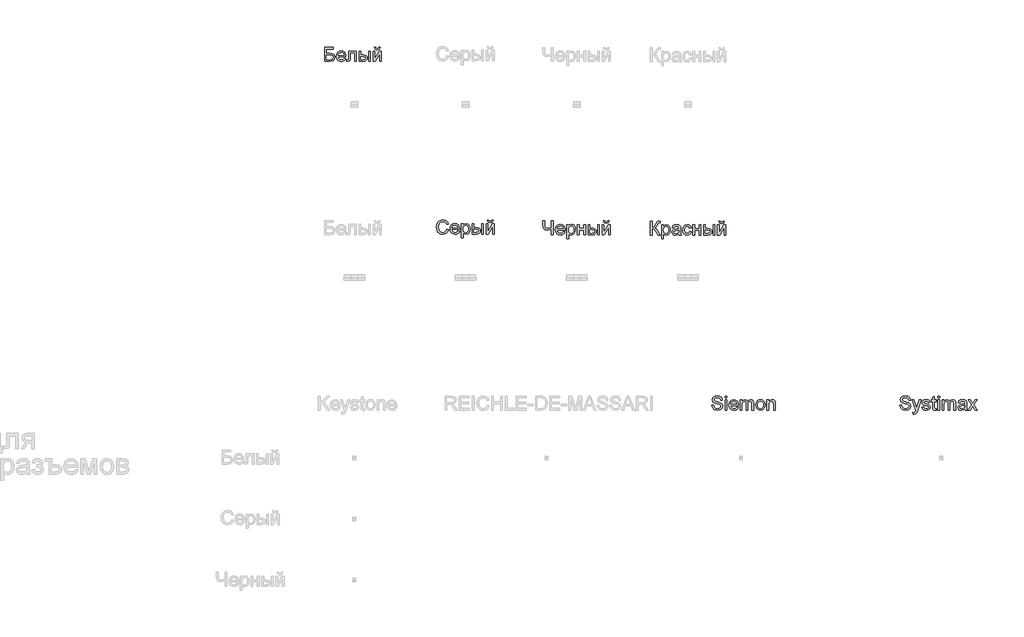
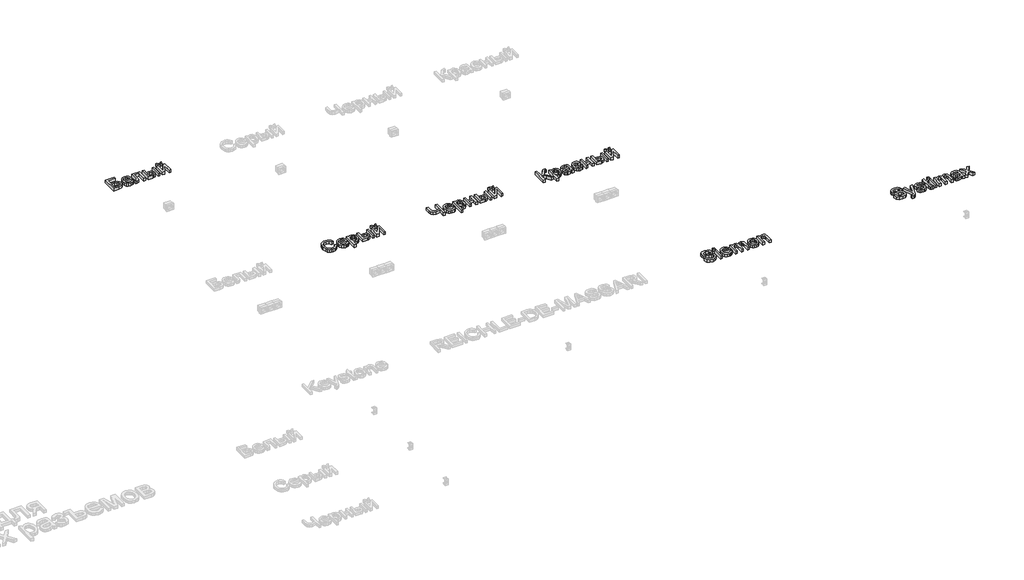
# One storey, part 14 of 15: 6 proxies.
"""IFC4 building model written with IfcOpenShell, lengths in millimetres."""

from ifc_helpers import new_model, si_unit, origin, origin_with_axes, place, context, project, spatial, polyline, outline, extrude, element, save

model = new_model("IFC4")

# Units and contexts
model_context = context("Model", 3, world=origin())
ifc_project = project(units=[si_unit("LENGTHUNIT", "METRE", prefix="MILLI")], contexts=[model_context])

# Site, building, storey
site = spatial("IfcSite", under=ifc_project)
building = spatial("IfcBuilding", under=site)
storey = spatial("IfcBuildingStorey", under=building, Name="Этаж 01", Elevation=0.0)

# Proxies
placement = place(None, origin())
element("IfcBuildingElementProxy", 1, Name="100 мм Arial", ObjectType="100 мм Arial", at=placement, inside=storey, context=model_context, shape_type="SweptSolid", body=[
    extrude(outline(polyline([(1294.7289559, 4700.4056732), (1357.5141498, 4700.4056732), (1357.5141498, 4687.8486344), (1307.2859947, 4687.8486344), (1307.2859947, 4658.0256673), (1330.8059169, 4658.0256673), (1351.529936, 4655.4750188), (1363.8662455, 4645.8365105), (1368.5015587, 4629.3553972), (1365.2028835, 4615.0447875), (1355.3559087, 4604.1677432), (1333.0622598, 4599.949363), (1294.7289559, 4599.949363), (1294.7289559, 4700.4056732)]), holes=[polyline([(1307.2859947, 4612.5064018), (1334.1904313, 4612.5064018), (1350.4998664, 4616.6512056), (1354.5833565, 4621.8322104), (1355.9445199, 4629.085617), (1352.8297857, 4638.920329), (1344.1600333, 4644.1687788), (1325.238636, 4645.4686285), (1307.2859947, 4645.4686285), (1307.2859947, 4612.5064018)])]), origin_with_axes(), (0.0, 0.0, 1.0), 20.0),
    extrude(outline(polyline([(1435.8484893, 4621.9241809), (1448.1602734, 4620.354551), (1443.7242296, 4611.0777934), (1436.6455669, 4604.1432178), (1427.0837007, 4599.8206043), (1415.1980466, 4598.3797332), (1400.4643727, 4600.8660023), (1389.1274759, 4608.3248098), (1381.8985947, 4620.2717776), (1379.4889676, 4636.2225277), (1381.9231201, 4652.7097725), (1389.2255777, 4665.0399507), (1400.4091904, 4672.7286844), (1414.4868081, 4675.2915956), (1428.126033, 4672.7348158), (1439.0245372, 4665.0644762), (1446.1706449, 4652.7588234), (1448.5526808, 4636.2961041), (1448.4791044, 4632.9115898), (1392.0460064, 4632.9115898), (1394.2195758, 4623.5122048), (1399.2687562, 4616.6021547), (1406.5558854, 4612.3531176), (1415.4433013, 4610.9367719), (1427.7550854, 4613.5609968), (1435.8484893, 4621.9241809)]), holes=[polyline([(1392.0460064, 4645.4686285), (1435.9956421, 4645.4686285), (1430.9679215, 4656.8484449), (1423.6470698, 4661.2630289), (1414.4377571, 4662.7345569), (1398.9744506, 4658.03793), (1394.1092112, 4652.5472913), (1392.0460064, 4645.4686285)])]), origin_with_axes(), (0.0, 0.0, 1.0), 20.0),
    extrude(outline(polyline([(1467.388239, 4673.7219658), (1523.8949134, 4673.7219658), (1523.8949134, 4600.0229394), (1511.3378747, 4600.0229394), (1511.3378747, 4661.164927), (1479.9452778, 4661.164927), (1479.9452778, 4625.9708828), (1479.0991492, 4609.7350241), (1474.4515733, 4602.8801562), (1463.4641644, 4599.949363), (1453.2615704, 4600.5870251), (1453.2615704, 4612.5064018), (1458.8779022, 4612.5064018), (1464.5555476, 4613.278954), (1466.8241533, 4615.7315006), (1467.388239, 4626.6821213), (1467.388239, 4673.7219658)])), origin_with_axes(), (0.0, 0.0, 1.0), 20.0),
    extrude(outline(polyline([(1611.7941848, 4673.7219658), (1624.3512236, 4673.7219658), (1624.3512236, 4599.949363), (1611.7941848, 4599.949363), (1611.7941848, 4673.7219658)])), origin_with_axes(), (0.0, 0.0, 1.0), 20.0),
    extrude(outline(polyline([(1542.7304716, 4673.7219658), (1555.2875104, 4673.7219658), (1555.2875104, 4647.0382584), (1570.8121306, 4647.0382584), (1584.2306263, 4645.4655629), (1594.1726373, 4640.7474763), (1600.3254636, 4633.2641434), (1602.3764057, 4623.3957088), (1600.6565574, 4614.4101911), (1595.4970124, 4606.8287563), (1586.5605456, 4601.6692113), (1573.5099319, 4599.949363), (1542.7304716, 4599.949363), (1542.7304716, 4673.7219658)]), holes=[polyline([(1555.2875104, 4612.5064018), (1568.1879057, 4612.5064018), (1584.8406973, 4615.1428894), (1589.819367, 4623.3711834), (1586.1282843, 4631.0967053), (1569.8311119, 4634.4812196), (1555.2875104, 4634.4812196), (1555.2875104, 4612.5064018)])]), origin_with_axes(), (0.0, 0.0, 1.0), 20.0),
    extrude(outline(polyline([(1643.1867817, 4673.7219658), (1655.7438205, 4673.7219658), (1655.7438205, 4617.460546), (1686.5968572, 4673.7219658), (1702.8327159, 4673.7219658), (1702.8327159, 4599.949363), (1690.2756771, 4599.949363), (1690.2756771, 4655.8674263), (1659.6188442, 4599.949363), (1643.1867817, 4599.949363), (1643.1867817, 4673.7219658)])), origin_with_axes(), (0.0, 0.0, 1.0), 20.0),
    extrude(outline(polyline([(1683.9971577, 4700.4056732), (1693.4149368, 4700.4056732), (1687.3203584, 4686.4384201), (1673.7945637, 4681.570115), (1659.1528603, 4686.4016319), (1652.6045608, 4700.4056732), (1662.0223399, 4700.4056732), (1665.5540071, 4693.3300761), (1672.6663923, 4690.9878941), (1680.4654906, 4693.2564997), (1683.9971577, 4700.4056732)])), origin_with_axes(), (0.0, 0.0, 1.0), 20.0),
])
element("IfcBuildingElementProxy", 2, Name="100 мм Arial", ObjectType="100 мм Arial", at=placement, inside=storey, context=model_context, shape_type="SweptSolid", body=[
    extrude(outline(polyline([(2173.9900999, 3393.5430011), (2186.5471386, 3390.3056395), (2180.7529972, 3375.6731332), (2171.6601806, 3364.9830955), (2159.7162785, 3358.4439931), (2145.3688806, 3356.2642923), (2130.8038193, 3357.9136299), (2119.2369963, 3362.8616427), (2110.3710402, 3370.9366525), (2103.9085798, 3381.966981), (2098.6478673, 3408.8223666), (2100.1347237, 3423.4702014), (2104.5952928, 3436.1192107), (2111.7965829, 3446.3677899), (2121.5056019, 3453.8143346), (2133.0203083, 3458.3484802), (2145.6386608, 3459.8598621), (2159.4066444, 3457.9039562), (2170.7895265, 3452.0362383), (2179.4316877, 3442.6184593), (2184.9775088, 3430.0123696), (2172.42047, 3427.0202627), (2162.1197742, 3442.4590437), (2145.1481514, 3447.3028233), (2125.5032529, 3441.9317462), (2114.4054794, 3427.510772), (2111.204906, 3408.8468921), (2114.9940906, 3387.2154308), (2126.7908399, 3373.3953305), (2144.1180819, 3368.821331), (2154.599653, 3370.3786981), (2163.3337847, 3375.0507995), (2169.9280695, 3382.7885841), (2173.9900999, 3393.5430011)])), origin_with_axes(), (0.0, 0.0, 1.0), 20.0),
    extrude(outline(polyline([(2253.8940692, 3379.8087399), (2266.2058533, 3378.2391101), (2261.7698096, 3368.9623525), (2254.6911469, 3362.0277768), (2245.1292807, 3357.7051634), (2233.2436266, 3356.2642923), (2218.5099527, 3358.7505614), (2207.1730558, 3366.2093689), (2199.9441746, 3378.1563367), (2197.5345476, 3394.1070868), (2199.9687001, 3410.5943316), (2207.2711577, 3422.9245098), (2218.4547704, 3430.6132435), (2232.532388, 3433.1761547), (2246.171613, 3430.6193748), (2257.0701171, 3422.9490352), (2264.2162249, 3410.6433825), (2266.5982608, 3394.1806632), (2266.5246844, 3390.7961489), (2210.0915863, 3390.7961489), (2212.2651558, 3381.3967639), (2217.3143362, 3374.4867137), (2224.6014654, 3370.2376767), (2233.4888812, 3368.821331), (2245.8006653, 3371.4455559), (2253.8940692, 3379.8087399)]), holes=[polyline([(2210.0915863, 3403.3531876), (2254.041222, 3403.3531876), (2249.0135014, 3414.733004), (2241.6926497, 3419.147588), (2232.4833371, 3420.6191159), (2217.0200306, 3415.9224891), (2212.1547912, 3410.4318504), (2210.0915863, 3403.3531876)])]), origin_with_axes(), (0.0, 0.0, 1.0), 20.0),
    extrude(outline(polyline([(2279.1552996, 3329.5805849), (2279.1552996, 3431.6065249), (2291.7123383, 3431.6065249), (2291.7123383, 3419.2947408), (2300.3943534, 3429.7058012), (2312.1175263, 3433.1761547), (2328.034554, 3428.3201124), (2338.4333517, 3414.6349022), (2341.9404934, 3395.2843092), (2337.9796306, 3374.9404349), (2326.4771869, 3361.0835464), (2310.5969474, 3356.2642923), (2299.6708522, 3359.4893911), (2291.7123383, 3367.6441086), (2291.7123383, 3329.5805849), (2279.1552996, 3329.5805849)]), holes=[polyline([(2291.7123383, 3394.1316123), (2293.070436, 3382.8744232), (2297.1447291, 3375.0017485), (2303.1565341, 3370.3664354), (2310.3271673, 3368.821331), (2317.6142965, 3370.4216177), (2323.7793856, 3375.2224777), (2327.9824374, 3383.3833267), (2329.3834546, 3395.06358), (2328.0161599, 3406.2594554), (2323.9142756, 3414.2424947), (2317.9116677, 3419.0249606), (2310.8422021, 3420.6191159), (2303.7451453, 3418.9237931), (2297.5126111, 3413.8378245), (2293.1624065, 3405.5206257), (2291.7123383, 3394.1316123)])]), origin_with_axes(), (0.0, 0.0, 1.0), 20.0),
    extrude(outline(polyline([(2425.1308752, 3431.6065249), (2437.687914, 3431.6065249), (2437.687914, 3357.8339221), (2425.1308752, 3357.8339221), (2425.1308752, 3431.6065249)])), origin_with_axes(), (0.0, 0.0, 1.0), 20.0),
    extrude(outline(polyline([(2356.067162, 3431.6065249), (2368.6242008, 3431.6065249), (2368.6242008, 3404.9228175), (2384.148821, 3404.9228175), (2397.5673168, 3403.350122), (2407.5093277, 3398.6320354), (2413.662154, 3391.1487024), (2415.7130962, 3381.2802679), (2413.9932478, 3372.2947502), (2408.8337029, 3364.7133154), (2399.8972361, 3359.5537704), (2386.8466223, 3357.8339221), (2356.067162, 3357.8339221), (2356.067162, 3431.6065249)]), holes=[polyline([(2368.6242008, 3370.3909609), (2381.5245961, 3370.3909609), (2398.1773877, 3373.0274485), (2403.1560574, 3381.2557425), (2399.4649747, 3388.9812644), (2383.1678023, 3392.3657787), (2368.6242008, 3392.3657787), (2368.6242008, 3370.3909609)])]), origin_with_axes(), (0.0, 0.0, 1.0), 20.0),
    extrude(outline(polyline([(2497.3338482, 3458.2902323), (2506.7516272, 3458.2902323), (2500.6570489, 3444.3229792), (2487.1312542, 3439.4546741), (2472.4895508, 3444.286191), (2465.9412512, 3458.2902323), (2475.3590303, 3458.2902323), (2478.8906975, 3451.2146352), (2486.0030827, 3448.8724532), (2493.802181, 3451.1410588), (2497.3338482, 3458.2902323)])), origin_with_axes(), (0.0, 0.0, 1.0), 20.0),
    extrude(outline(polyline([(2456.5234722, 3431.6065249), (2469.0805109, 3431.6065249), (2469.0805109, 3375.3451051), (2499.9335476, 3431.6065249), (2516.1694063, 3431.6065249), (2516.1694063, 3357.8339221), (2503.6123675, 3357.8339221), (2503.6123675, 3413.7519854), (2472.9555346, 3357.8339221), (2456.5234722, 3357.8339221), (2456.5234722, 3431.6065249)])), origin_with_axes(), (0.0, 0.0, 1.0), 20.0),
])
element("IfcBuildingElementProxy", 3, Name="100 мм Arial", ObjectType="100 мм Arial", at=placement, inside=storey, context=model_context, shape_type="SweptSolid", body=[
    extrude(outline(polyline([(2939.4582433, 3352.425762), (2926.9012045, 3352.425762), (2926.9012045, 3392.6475268), (2895.8029132, 3385.3879888), (2877.4456016, 3390.3543957), (2866.8015492, 3402.9604854), (2864.1160106, 3422.9610032), (2864.1160106, 3452.8820722), (2876.6730494, 3452.8820722), (2876.6730494, 3424.6532604), (2878.1813656, 3411.0753491), (2882.7063141, 3403.1076382), (2897.2008647, 3397.9450276), (2926.9012045, 3404.174496), (2926.9012045, 3452.8820722), (2939.4582433, 3452.8820722), (2939.4582433, 3352.425762)])), origin_with_axes(), (0.0, 0.0, 1.0), 20.0),
    extrude(outline(polyline([(3011.5140634, 3374.4005799), (3023.8258475, 3372.83095), (3019.3898038, 3363.5541924), (3012.311141, 3356.6196168), (3002.7492748, 3352.2970033), (2990.8636207, 3350.8561322), (2976.1299468, 3353.3424013), (2964.79305, 3360.8012088), (2957.5641688, 3372.7481766), (2955.1545417, 3388.6989267), (2957.5886943, 3405.1861715), (2964.8911519, 3417.5163497), (2976.0747645, 3425.2050834), (2990.1523822, 3427.7679946), (3003.7916072, 3425.2112148), (3014.6901113, 3417.5408752), (3021.836219, 3405.2352224), (3024.2182549, 3388.7725031), (3024.1446785, 3385.3879888), (2967.7115805, 3385.3879888), (2969.8851499, 3375.9886038), (2974.9343303, 3369.0785537), (2982.2214595, 3364.8295166), (2991.1088754, 3363.4131709), (3003.4206595, 3366.0373958), (3011.5140634, 3374.4005799)]), holes=[polyline([(2967.7115805, 3397.9450276), (3011.6612162, 3397.9450276), (3006.6334956, 3409.3248439), (2999.3126439, 3413.7394279), (2990.1033313, 3415.2109559), (2974.6400247, 3410.5143291), (2969.7747853, 3405.0236903), (2967.7115805, 3397.9450276)])]), origin_with_axes(), (0.0, 0.0, 1.0), 20.0),
    extrude(outline(polyline([(3036.7752937, 3324.1724248), (3036.7752937, 3426.1983648), (3049.3323325, 3426.1983648), (3049.3323325, 3413.8865807), (3058.0143476, 3424.2976411), (3069.7375205, 3427.7679946), (3085.6545481, 3422.9119523), (3096.0533459, 3409.2267421), (3099.5604876, 3389.8761491), (3095.5996247, 3369.5322748), (3084.097181, 3355.6753863), (3068.2169416, 3350.8561322), (3057.2908463, 3354.081231), (3049.3323325, 3362.2359486), (3049.3323325, 3324.1724248), (3036.7752937, 3324.1724248)]), holes=[polyline([(3049.3323325, 3388.7234522), (3050.6904302, 3377.4662632), (3054.7647233, 3369.5935885), (3060.7765282, 3364.9582753), (3067.9471614, 3363.4131709), (3075.2342906, 3365.0134576), (3081.3993797, 3369.8143177), (3085.6024315, 3377.9751666), (3087.0034488, 3389.6554199), (3085.636154, 3400.8512953), (3081.5342698, 3408.8343346), (3075.5316619, 3413.6168005), (3068.4621962, 3415.2109559), (3061.3651394, 3413.515633), (3055.1326053, 3408.4296644), (3050.7824007, 3400.1124656), (3049.3323325, 3388.7234522)])]), origin_with_axes(), (0.0, 0.0, 1.0), 20.0),
    extrude(outline(polyline([(3113.6871562, 3426.1983648), (3126.2441949, 3426.1983648), (3126.2441949, 3397.9450276), (3159.2064217, 3397.9450276), (3159.2064217, 3426.1983648), (3171.7634605, 3426.1983648), (3171.7634605, 3352.425762), (3159.2064217, 3352.425762), (3159.2064217, 3385.3879888), (3126.2441949, 3385.3879888), (3126.2441949, 3352.425762), (3113.6871562, 3352.425762), (3113.6871562, 3426.1983648)])), origin_with_axes(), (0.0, 0.0, 1.0), 20.0),
    extrude(outline(polyline([(3190.5990186, 3426.1983648), (3203.1560574, 3426.1983648), (3203.1560574, 3399.5146574), (3218.6806776, 3399.5146574), (3232.0991734, 3397.9419619), (3242.0411843, 3393.2238753), (3248.1940107, 3385.7405424), (3250.2449528, 3375.8721078), (3248.5251045, 3366.8865901), (3243.3655595, 3359.3051553), (3234.4290927, 3354.1456103), (3221.3784789, 3352.425762), (3190.5990186, 3352.425762), (3190.5990186, 3426.1983648)]), holes=[polyline([(3203.1560574, 3364.9828008), (3216.0564527, 3364.9828008), (3232.7092443, 3367.6192884), (3237.687914, 3375.8475824), (3233.9968313, 3383.5731043), (3217.6996589, 3386.9576186), (3203.1560574, 3386.9576186), (3203.1560574, 3364.9828008)])]), origin_with_axes(), (0.0, 0.0, 1.0), 20.0),
    extrude(outline(polyline([(3259.6627319, 3426.1983648), (3272.2197706, 3426.1983648), (3272.2197706, 3352.425762), (3259.6627319, 3352.425762), (3259.6627319, 3426.1983648)])), origin_with_axes(), (0.0, 0.0, 1.0), 20.0),
    extrude(outline(polyline([(3291.0553288, 3426.1983648), (3303.6123675, 3426.1983648), (3303.6123675, 3369.936945), (3334.4654042, 3426.1983648), (3350.7012629, 3426.1983648), (3350.7012629, 3352.425762), (3338.1442242, 3352.425762), (3338.1442242, 3408.3438253), (3307.4873912, 3352.425762), (3291.0553288, 3352.425762), (3291.0553288, 3426.1983648)])), origin_with_axes(), (0.0, 0.0, 1.0), 20.0),
    extrude(outline(polyline([(3331.8657048, 3452.8820722), (3341.2834839, 3452.8820722), (3335.1889055, 3438.9148191), (3321.6631108, 3434.046514), (3307.0214074, 3438.8780309), (3300.4731079, 3452.8820722), (3309.8908869, 3452.8820722), (3313.4225541, 3445.8064751), (3320.5349393, 3443.4642931), (3328.3340376, 3445.7328987), (3331.8657048, 3452.8820722)])), origin_with_axes(), (0.0, 0.0, 1.0), 20.0),
])
element("IfcBuildingElementProxy", 4, Name="100 мм Arial", ObjectType="100 мм Arial", at=placement, inside=storey, context=model_context, shape_type="SweptSolid", body=[
    extrude(outline(polyline([(3639.0019331, 3451.2621771), (3651.5589719, 3451.2621771), (3651.5589719, 3407.3125414), (3665.5998014, 3410.6357421), (3675.3977252, 3427.4479493), (3682.3261694, 3441.4887788), (3690.1743186, 3448.4417485), (3701.3947195, 3451.2621771), (3709.6352762, 3451.1150243), (3709.6352762, 3438.5579855), (3706.8638985, 3438.6315619), (3704.0925208, 3438.7051383), (3694.2823342, 3435.688506), (3686.8265925, 3422.7635852), (3677.9361109, 3407.0182358), (3669.2663586, 3401.8188369), (3678.9600491, 3396.1411915), (3688.5188497, 3384.307654), (3709.6352762, 3350.8058669), (3695.0671492, 3350.8058669), (3677.2126097, 3379.1082551), (3664.6433082, 3393.8848486), (3651.5589719, 3397.8947623), (3651.5589719, 3350.8058669), (3639.0019331, 3350.8058669), (3639.0019331, 3451.2621771)])), origin_with_axes(), (0.0, 0.0, 1.0), 20.0),
    extrude(outline(polyline([(3719.0530553, 3322.5525297), (3719.0530553, 3424.5784697), (3731.610094, 3424.5784697), (3731.610094, 3412.2666856), (3740.2921091, 3422.6777461), (3752.015282, 3426.1480996), (3767.9323097, 3421.2920572), (3778.3311074, 3407.606847), (3781.8382491, 3388.2562541), (3777.8773863, 3367.9123797), (3766.3749426, 3354.0554912), (3750.4947031, 3349.2362371), (3739.5686079, 3352.4613359), (3731.610094, 3360.6160535), (3731.610094, 3322.5525297), (3719.0530553, 3322.5525297)]), holes=[polyline([(3731.610094, 3387.1035571), (3732.9681917, 3375.8463681), (3737.0424848, 3367.9736934), (3743.0542898, 3363.3383802), (3750.224923, 3361.7932759), (3757.5120522, 3363.3935625), (3763.6771413, 3368.1944226), (3767.8801931, 3376.3552715), (3769.2812103, 3388.0355249), (3767.9139156, 3399.2314002), (3763.8120313, 3407.2144395), (3757.8094234, 3411.9969055), (3750.7399578, 3413.5910608), (3743.642901, 3411.8957379), (3737.4103668, 3406.8097693), (3733.0601622, 3398.4925706), (3731.610094, 3387.1035571)])]), origin_with_axes(), (0.0, 0.0, 1.0), 20.0),
    extrude(outline(polyline([(3843.0538131, 3360.223646), (3830.8769191, 3351.7133092), (3817.4247008, 3349.2362371), (3806.9308669, 3350.7261592), (3799.1900165, 3355.1959254), (3794.4167477, 3361.9833482), (3792.825658, 3370.42624), (3795.2291537, 3380.3590539), (3801.5444613, 3387.569541), (3810.336841, 3391.6898193), (3821.2016226, 3393.5782802), (3842.9802367, 3397.8947623), (3843.0538131, 3400.6906655), (3839.5957223, 3409.9612918), (3825.7143084, 3413.5910608), (3813.0101168, 3411.1753024), (3806.9523266, 3402.6036519), (3794.3952879, 3404.1732817), (3799.8276787, 3416.4360149), (3810.7660367, 3423.6219765), (3827.3329892, 3426.1480996), (3842.551041, 3423.9162821), (3851.147217, 3418.3122131), (3854.9977152, 3409.7896135), (3855.6108519, 3398.8022046), (3855.6108519, 3383.1794825), (3856.248514, 3361.3640802), (3858.7501116, 3350.8058669), (3846.1930728, 3350.8058669), (3843.0538131, 3360.223646)]), holes=[polyline([(3843.0538131, 3385.3377236), (3822.7957779, 3381.4872253), (3811.99231, 3379.4516116), (3807.0994794, 3376.1406737), (3805.3826968, 3371.3091568), (3809.1228304, 3364.5156026), (3820.0979766, 3361.7932759), (3832.8021682, 3364.7976455), (3840.9936739, 3372.0694463), (3842.9802367, 3381.7815309), (3843.0538131, 3385.3377236)])]), origin_with_axes(), (0.0, 0.0, 1.0), 20.0),
    extrude(outline(polyline([(3919.9656756, 3377.4895743), (3932.5227143, 3375.9199445), (3929.021704, 3364.7516602), (3922.4427477, 3356.3118341), (3913.4051133, 3351.0051364), (3902.528069, 3349.2362371), (3889.1708869, 3351.7041121), (3878.7261039, 3359.1077373), (3871.9846663, 3371.1221501), (3869.7375205, 3387.4223882), (3873.575756, 3408.2812973), (3885.2744034, 3421.6844647), (3902.3563907, 3426.1480996), (3912.9667206, 3424.6152579), (3921.4494663, 3420.016733), (3927.5348476, 3412.5977794), (3930.9530845, 3402.6036519), (3918.3960457, 3401.034022), (3912.5712475, 3410.4395384), (3902.4544926, 3413.5910608), (3894.3396289, 3412.039825), (3887.8986283, 3407.3861178), (3883.6955765, 3399.378553), (3882.2945592, 3387.7657447), (3883.6649197, 3375.9965866), (3887.776001, 3367.9614307), (3894.1005056, 3363.3353146), (3902.1111361, 3361.7932759), (3913.9446736, 3365.6437741), (3919.9656756, 3377.4895743)])), origin_with_axes(), (0.0, 0.0, 1.0), 20.0),
    extrude(outline(polyline([(3943.5101232, 3424.5784697), (3956.067162, 3424.5784697), (3956.067162, 3396.3251325), (3989.0293888, 3396.3251325), (3989.0293888, 3424.5784697), (4001.5864276, 3424.5784697), (4001.5864276, 3350.8058669), (3989.0293888, 3350.8058669), (3989.0293888, 3383.7680937), (3956.067162, 3383.7680937), (3956.067162, 3350.8058669), (3943.5101232, 3350.8058669), (3943.5101232, 3424.5784697)])), origin_with_axes(), (0.0, 0.0, 1.0), 20.0),
    extrude(outline(polyline([(4089.4856989, 3424.5784697), (4102.0427377, 3424.5784697), (4102.0427377, 3350.8058669), (4089.4856989, 3350.8058669), (4089.4856989, 3424.5784697)])), origin_with_axes(), (0.0, 0.0, 1.0), 20.0),
    extrude(outline(polyline([(4020.4219857, 3424.5784697), (4032.9790245, 3424.5784697), (4032.9790245, 3397.8947623), (4048.5036447, 3397.8947623), (4061.9221404, 3396.3220668), (4071.8641514, 3391.6039802), (4078.0169777, 3384.1206473), (4080.0679199, 3374.2522128), (4078.3480715, 3365.266695), (4073.1885265, 3357.6852603), (4064.2520597, 3352.5257153), (4051.201446, 3350.8058669), (4020.4219857, 3350.8058669), (4020.4219857, 3424.5784697)]), holes=[polyline([(4032.9790245, 3363.3629057), (4045.8794198, 3363.3629057), (4062.5322114, 3365.9993933), (4067.5108811, 3374.2276873), (4063.8197984, 3381.9532092), (4047.522626, 3385.3377236), (4032.9790245, 3385.3377236), (4032.9790245, 3363.3629057)])]), origin_with_axes(), (0.0, 0.0, 1.0), 20.0),
    extrude(outline(polyline([(4120.8782959, 3424.5784697), (4133.4353346, 3424.5784697), (4133.4353346, 3368.3170499), (4164.2883713, 3424.5784697), (4180.52423, 3424.5784697), (4180.52423, 3350.8058669), (4167.9671912, 3350.8058669), (4167.9671912, 3406.7239302), (4137.3103583, 3350.8058669), (4120.8782959, 3350.8058669), (4120.8782959, 3424.5784697)])), origin_with_axes(), (0.0, 0.0, 1.0), 20.0),
    extrude(outline(polyline([(4161.6886719, 3451.2621771), (4171.1064509, 3451.2621771), (4165.0118725, 3437.294924), (4151.4860779, 3432.4266189), (4136.8443744, 3437.2581358), (4130.2960749, 3451.2621771), (4139.713854, 3451.2621771), (4143.2455212, 3444.1865801), (4150.3579064, 3441.844398), (4158.1570047, 3444.1130037), (4161.6886719, 3451.2621771)])), origin_with_axes(), (0.0, 0.0, 1.0), 20.0),
])
element("IfcBuildingElementProxy", 5, Name="100 мм Arial", ObjectType="100 мм Arial", at=placement, inside=storey, context=model_context, shape_type="SweptSolid", body=[
    extrude(outline(polyline([(4079.8123091, 2125.8447646), (4092.3693479, 2125.8447646), (4096.4160498, 2113.2754631), (4106.2998128, 2105.329212), (4121.3584491, 2102.3003169), (4134.4795736, 2104.593448), (4142.9531222, 2110.8964928), (4145.7367626, 2119.3209905), (4143.652098, 2127.156877), (4135.1172357, 2132.8590479), (4116.8335006, 2137.6537766), (4097.1518138, 2143.8464569), (4086.4709732, 2153.1906595), (4082.9515688, 2165.6741219), (4087.3048391, 2179.8866297), (4100.0212934, 2189.9175454), (4118.6361223, 2193.3388479), (4138.5017501, 2189.7581299), (4151.7455019, 2179.2367048), (4156.7241716, 2163.5158809), (4144.1671328, 2163.5158809), (4141.861739, 2171.0084108), (4137.0547476, 2176.4162762), (4119.1266317, 2180.7818092), (4101.1494648, 2176.4653271), (4095.5086076, 2166.0420039), (4099.5062586, 2157.3354634), (4120.0095484, 2150.32118), (4142.229621, 2144.0181351), (4154.3819895, 2133.8400666), (4158.2938014, 2119.6398216), (4153.7933783, 2104.6179734), (4140.8439321, 2093.65509), (4121.8489584, 2089.7432781), (4099.4204194, 2093.9616583), (4085.2324372, 2106.6658499), (4079.8123091, 2125.8447646)])), origin_with_axes(), (0.0, 0.0, 1.0), 20.0),
    extrude(outline(polyline([(4175.5597297, 2179.2121793), (4175.5597297, 2191.7692181), (4188.1167685, 2191.7692181), (4188.1167685, 2179.2121793), (4175.5597297, 2179.2121793)])), origin_with_axes(), (0.0, 0.0, 1.0), 20.0),
    extrude(outline(polyline([(4175.5597297, 2091.312908), (4175.5597297, 2165.0855107), (4188.1167685, 2165.0855107), (4188.1167685, 2091.312908), (4175.5597297, 2091.312908)])), origin_with_axes(), (0.0, 0.0, 1.0), 20.0),
    extrude(outline(polyline([(4258.6029588, 2113.2877258), (4270.9147429, 2111.718096), (4266.4786991, 2102.4413383), (4259.4000364, 2095.5067627), (4249.8381702, 2091.1841493), (4237.9525161, 2089.7432781), (4223.2188422, 2092.2295473), (4211.8819454, 2099.6883547), (4204.6530642, 2111.6353225), (4202.2434371, 2127.5860727), (4204.6775896, 2144.0733174), (4211.9800472, 2156.4034956), (4223.1636599, 2164.0922293), (4237.2412776, 2166.6551406), (4250.8805025, 2164.0983607), (4261.7790067, 2156.4280211), (4268.9251144, 2144.1223684), (4271.3071503, 2127.6596491), (4271.2335739, 2124.2751347), (4214.8004759, 2124.2751347), (4216.9740453, 2114.8757497), (4222.0232257, 2107.9656996), (4229.3103549, 2103.7166626), (4238.1977708, 2102.3003169), (4250.5095549, 2104.9245418), (4258.6029588, 2113.2877258)]), holes=[polyline([(4214.8004759, 2136.8321735), (4258.7501116, 2136.8321735), (4253.722391, 2148.2119899), (4246.4015393, 2152.6265738), (4237.1922266, 2154.0981018), (4221.7289201, 2149.401475), (4216.8636807, 2143.9108362), (4214.8004759, 2136.8321735)])]), origin_with_axes(), (0.0, 0.0, 1.0), 20.0),
    extrude(outline(polyline([(4283.8641891, 2091.312908), (4283.8641891, 2165.0855107), (4296.4212279, 2165.0855107), (4296.4212279, 2152.9454049), (4305.054192, 2162.8904815), (4317.3414507, 2166.6551406), (4329.9230149, 2162.8169051), (4336.8391964, 2152.0624881), (4346.6371202, 2163.0069774), (4359.010218, 2166.6551406), (4368.4494568, 2165.1376273), (4375.4300177, 2160.5850876), (4379.7434341, 2152.8748942), (4381.1812396, 2141.8844196), (4381.1812396, 2091.312908), (4368.6242008, 2091.312908), (4368.6242008, 2136.488817), (4367.4592411, 2146.9734538), (4363.2408609, 2152.1360645), (4356.067162, 2154.0981018), (4343.7185897, 2149.0703812), (4340.0305727, 2142.528213), (4338.8012337, 2132.9571498), (4338.8012337, 2091.312908), (4326.2441949, 2091.312908), (4326.2441949, 2137.8867685), (4323.3379272, 2150.0513998), (4313.8097835, 2154.0981018), (4304.5146318, 2151.4003005), (4298.3342142, 2143.5031003), (4296.4212279, 2128.5180404), (4296.4212279, 2091.312908), (4283.8641891, 2091.312908)])), origin_with_axes(), (0.0, 0.0, 1.0), 20.0),
    extrude(outline(polyline([(4396.877538, 2128.1992093), (4399.5937334, 2145.9863038), (4407.7423196, 2158.4881603), (4417.8100235, 2164.6133955), (4429.8642902, 2166.6551406), (4443.0559255, 2164.1688714), (4453.5926789, 2156.710064), (4460.4996634, 2144.8673294), (4462.8019915, 2129.2292789), (4458.7307641, 2106.8865791), (4446.8727012, 2094.2437012), (4429.8642902, 2089.7432781), (4416.5132395, 2092.2203502), (4405.9887488, 2099.6515665), (4399.1553407, 2111.7426214), (4396.877538, 2128.1992093)]), holes=[polyline([(4409.4345768, 2128.2237348), (4410.8877107, 2116.8592468), (4415.2471123, 2108.7627773), (4421.8076746, 2103.915932), (4429.8642902, 2102.3003169), (4437.8841177, 2103.925129), (4444.4324173, 2108.7995655), (4448.7918189, 2117.0033339), (4450.2449528, 2128.6161423), (4448.7826218, 2139.6495364), (4444.3956291, 2147.6356414), (4437.8381325, 2152.4824867), (4429.8642902, 2154.0981018), (4421.8076746, 2152.4886181), (4415.2471123, 2147.6601669), (4410.8877107, 2139.5820914), (4409.4345768, 2128.2237348)])]), origin_with_axes(), (0.0, 0.0, 1.0), 20.0),
    extrude(outline(polyline([(4476.9286602, 2091.312908), (4476.9286602, 2165.0855107), (4489.4856989, 2165.0855107), (4489.4856989, 2154.7848149), (4499.087419, 2163.6875591), (4512.1962808, 2166.6551406), (4524.0543437, 2164.2639076), (4532.1477476, 2157.9853882), (4535.9124067, 2148.7515501), (4536.5745943, 2136.6114443), (4536.5745943, 2091.312908), (4524.0175555, 2091.312908), (4524.0175555, 2134.9191871), (4522.570553, 2146.0292234), (4517.4569933, 2151.9030726), (4508.8362919, 2154.0981018), (4495.2123953, 2149.1684831), (4490.917373, 2142.025441), (4489.4856989, 2130.4555522), (4489.4856989, 2091.312908), (4476.9286602, 2091.312908)])), origin_with_axes(), (0.0, 0.0, 1.0), 20.0),
])
element("IfcBuildingElementProxy", 6, Name="100 мм Arial", ObjectType="100 мм Arial", at=placement, inside=storey, context=model_context, shape_type="SweptSolid", body=[
    extrude(outline(polyline([(5432.7234137, 2125.8447646), (5445.2804525, 2125.8447646), (5449.3271544, 2113.2754631), (5459.2109174, 2105.329212), (5474.2695537, 2102.3003169), (5487.3906782, 2104.593448), (5495.8642268, 2110.8964928), (5498.6478673, 2119.3209905), (5496.5632026, 2127.156877), (5488.0283403, 2132.8590479), (5469.7446052, 2137.6537766), (5450.0629184, 2143.8464569), (5439.3820778, 2153.1906595), (5435.8626734, 2165.6741219), (5440.2159437, 2179.8866297), (5452.932398, 2189.9175454), (5471.5472269, 2193.3388479), (5491.4128547, 2189.7581299), (5504.6566065, 2179.2367048), (5509.6352762, 2163.5158809), (5497.0782374, 2163.5158809), (5494.7728436, 2171.0084108), (5489.9658522, 2176.4162762), (5472.0377363, 2180.7818092), (5454.0605694, 2176.4653271), (5448.4197122, 2166.0420039), (5452.4173632, 2157.3354634), (5472.9206531, 2150.32118), (5495.1407256, 2144.0181351), (5507.2930941, 2133.8400666), (5511.204906, 2119.6398216), (5506.704483, 2104.6179734), (5493.7550367, 2093.65509), (5474.760063, 2089.7432781), (5452.3315241, 2093.9616583), (5438.1435418, 2106.6658499), (5432.7234137, 2125.8447646)])), origin_with_axes(), (0.0, 0.0, 1.0), 20.0),
    extrude(outline(polyline([(5528.4708343, 2063.0595707), (5526.9012045, 2075.1506256), (5533.2778257, 2074.0469796), (5539.2375141, 2075.4326685), (5542.8918085, 2079.2954294), (5546.3253738, 2088.5415303), (5547.3063925, 2091.5826881), (5520.6226851, 2165.0855107), (5533.8664369, 2165.0855107), (5548.017631, 2124.1279819), (5552.9472497, 2107.7449704), (5557.8768685, 2122.2149955), (5572.42047, 2165.0855107), (5585.56612, 2165.0855107), (5559.8879567, 2089.5470744), (5553.2170299, 2073.1640629), (5545.9329664, 2064.3103695), (5536.1473053, 2061.4899409), (5528.4708343, 2063.0595707)])), origin_with_axes(), (0.0, 0.0, 1.0), 20.0),
    extrude(outline(polyline([(5591.2560282, 2113.2877258), (5603.8130669, 2114.8573556), (5609.6256025, 2105.5376784), (5622.9429307, 2102.3003169), (5635.7452241, 2105.2678983), (5639.9145534, 2112.2331307), (5635.7206987, 2117.873988), (5622.7957779, 2121.4547061), (5603.8866433, 2127.5983354), (5595.6338239, 2134.7720343), (5592.825658, 2144.9010519), (5595.0820009, 2154.2575173), (5601.237893, 2161.4066908), (5609.2209323, 2165.1222989), (5620.0244002, 2166.6551406), (5635.3037657, 2164.1903312), (5645.0158504, 2157.5194043), (5649.3323325, 2146.2499526), (5636.7752937, 2144.6803227), (5632.0541414, 2151.608767), (5621.0054189, 2154.0981018), (5608.9879403, 2151.7191316), (5605.3826968, 2146.1763762), (5606.8787502, 2142.5220817), (5611.5631143, 2139.750704), (5622.378845, 2137.0774282), (5640.8097329, 2131.1667908), (5649.3691207, 2124.4713384), (5652.4715922, 2113.5575059), (5648.8295604, 2101.5400274), (5638.3203981, 2092.8212241), (5622.7712524, 2089.7432781), (5610.1099804, 2091.2270688), (5600.870011, 2095.678441), (5594.7018562, 2103.0483436), (5591.2560282, 2113.2877258)])), origin_with_axes(), (0.0, 0.0, 1.0), 20.0),
    extrude(outline(polyline([(5693.2819682, 2101.7852821), (5694.851598, 2090.945026), (5685.4583444, 2089.7432781), (5674.9369193, 2091.8279427), (5669.6884695, 2097.2971217), (5668.1678906, 2111.5464177), (5668.1678906, 2152.5284719), (5658.7501116, 2152.5284719), (5658.7501116, 2165.0855107), (5668.1678906, 2165.0855107), (5668.1678906, 2183.0136266), (5680.7249294, 2190.395792), (5680.7249294, 2165.0855107), (5693.2819682, 2165.0855107), (5693.2819682, 2152.5284719), (5680.7249294, 2152.5284719), (5680.7249294, 2111.9142997), (5681.387117, 2105.4395766), (5683.5330953, 2103.1464455), (5687.8127892, 2102.3003169), (5693.2819682, 2101.7852821)])), origin_with_axes(), (0.0, 0.0, 1.0), 20.0),
    extrude(outline(polyline([(5705.8390069, 2179.2121793), (5705.8390069, 2191.7692181), (5718.3960457, 2191.7692181), (5718.3960457, 2179.2121793), (5705.8390069, 2179.2121793)])), origin_with_axes(), (0.0, 0.0, 1.0), 20.0),
    extrude(outline(polyline([(5705.8390069, 2091.312908), (5705.8390069, 2165.0855107), (5718.3960457, 2165.0855107), (5718.3960457, 2091.312908), (5705.8390069, 2091.312908)])), origin_with_axes(), (0.0, 0.0, 1.0), 20.0),
    extrude(outline(polyline([(5737.2316039, 2091.312908), (5737.2316039, 2165.0855107), (5749.7886426, 2165.0855107), (5749.7886426, 2152.9454049), (5758.4216068, 2162.8904815), (5770.7088654, 2166.6551406), (5783.2904297, 2162.8169051), (5790.2066112, 2152.0624881), (5800.004535, 2163.0069774), (5812.3776327, 2166.6551406), (5821.8168716, 2165.1376273), (5828.7974325, 2160.5850876), (5833.1108489, 2152.8748942), (5834.5486543, 2141.8844196), (5834.5486543, 2091.312908), (5821.9916156, 2091.312908), (5821.9916156, 2136.488817), (5820.8266559, 2146.9734538), (5816.6082757, 2152.1360645), (5809.4345768, 2154.0981018), (5797.0860045, 2149.0703812), (5793.3979875, 2142.528213), (5792.1686485, 2132.9571498), (5792.1686485, 2091.312908), (5779.6116097, 2091.312908), (5779.6116097, 2137.8867685), (5776.7053419, 2150.0513998), (5767.1771983, 2154.0981018), (5757.8820465, 2151.4003005), (5751.701629, 2143.5031003), (5749.7886426, 2128.5180404), (5749.7886426, 2091.312908), (5737.2316039, 2091.312908)])), origin_with_axes(), (0.0, 0.0, 1.0), 20.0),
    extrude(outline(polyline([(5900.4731079, 2100.730687), (5888.2962138, 2092.2203502), (5874.8439955, 2089.7432781), (5864.3501616, 2091.2332002), (5856.6093113, 2095.7029664), (5851.8360424, 2102.4903892), (5850.2449528, 2110.933281), (5852.6484485, 2120.8660949), (5858.9637561, 2128.076582), (5867.7561358, 2132.1968603), (5878.6209173, 2134.0853213), (5900.3995315, 2138.4018033), (5900.4731079, 2141.1977065), (5897.0150171, 2150.4683328), (5883.1336031, 2154.0981018), (5870.4294116, 2151.6823434), (5864.3716214, 2143.1106929), (5851.8145826, 2144.6803227), (5857.2469734, 2156.9430559), (5868.1853314, 2164.1290175), (5884.7522839, 2166.6551406), (5899.9703358, 2164.4233231), (5908.5665117, 2158.8192541), (5912.41701, 2150.2966545), (5913.0301466, 2139.3092456), (5913.0301466, 2123.6865235), (5913.6678087, 2101.8711212), (5916.1694063, 2091.312908), (5903.6123675, 2091.312908), (5900.4731079, 2100.730687)]), holes=[polyline([(5900.4731079, 2125.8447646), (5880.2150727, 2121.9942663), (5869.4116047, 2119.9586526), (5864.5187742, 2116.6477147), (5862.8019915, 2111.8161978), (5866.5421252, 2105.0226436), (5877.5172714, 2102.3003169), (5890.2214629, 2105.3046865), (5898.4129687, 2112.5764873), (5900.3995315, 2122.2885719), (5900.4731079, 2125.8447646)])]), origin_with_axes(), (0.0, 0.0, 1.0), 20.0),
    extrude(outline(polyline([(5922.4479257, 2091.312908), (5949.2787859, 2128.3954131), (5924.0175555, 2165.0855107), (5939.1252428, 2165.0855107), (5951.3143996, 2147.4271749), (5957.0043078, 2139.0885164), (5961.9339265, 2145.906596), (5975.8153405, 2165.0855107), (5990.9230277, 2165.0855107), (5964.3864732, 2128.3954131), (5989.9420091, 2091.312908), (5974.8343218, 2091.312908), (5959.4568544, 2113.6065569), (5956.6364258, 2117.6777843), (5937.555613, 2091.312908), (5922.4479257, 2091.312908)])), origin_with_axes(), (0.0, 0.0, 1.0), 20.0),
])

save(model, "model.ifc")
